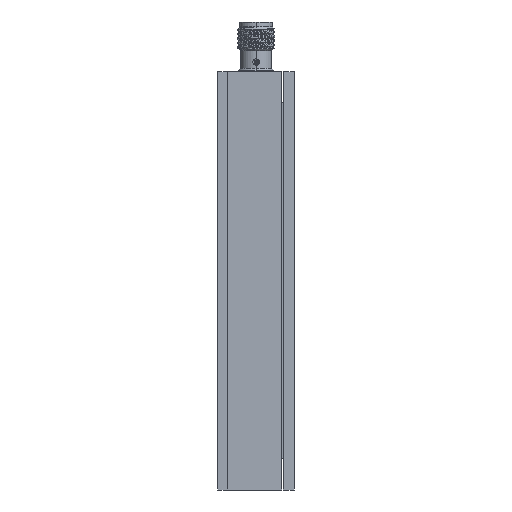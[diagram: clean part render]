
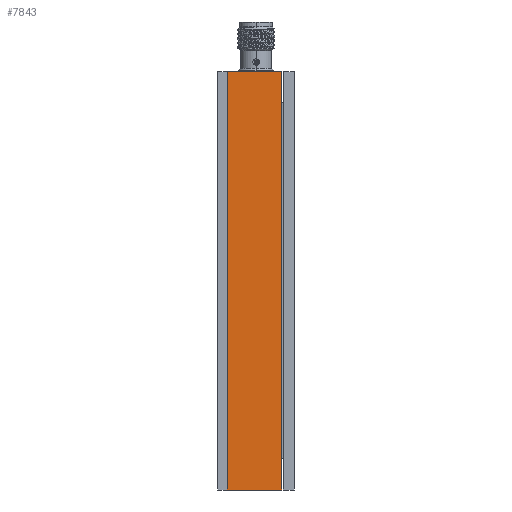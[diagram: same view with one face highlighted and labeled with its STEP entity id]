
A CAD part, left-side view. The second image highlights one B-rep face of the part: STEP entity #7843.
In plain terms, the highlighted planar face has unit normal (-1, 0, 0).
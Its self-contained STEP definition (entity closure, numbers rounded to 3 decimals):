
#775 = CARTESIAN_POINT ( 'NONE',  ( -39.497, 8.89, -34.099 ) ) ;
#989 = LINE ( 'NONE', #2915, #8268 ) ;
#1225 = ORIENTED_EDGE ( 'NONE', *, *, #2736, .T. ) ;
#1595 = CARTESIAN_POINT ( 'NONE',  ( -39.497, 8.89, -34.099 ) ) ;
#2469 = VECTOR ( 'NONE', #3083, 1000. ) ;
#2513 = ORIENTED_EDGE ( 'NONE', *, *, #21480, .F. ) ;
#2736 = EDGE_CURVE ( 'NONE', #14103, #6220, #989, .T. ) ;
#2915 = CARTESIAN_POINT ( 'NONE',  ( -39.497, 8.89, 34.1 ) ) ;
#3083 = DIRECTION ( 'NONE',  ( 0., 1., 0. ) ) ;
#3682 = DIRECTION ( 'NONE',  ( 0., 0., -1. ) ) ;
#4152 = FACE_OUTER_BOUND ( 'NONE', #15044, .T. ) ;
#4201 = LINE ( 'NONE', #11017, #2469 ) ;
#4371 = CARTESIAN_POINT ( 'NONE',  ( -39.497, 8.89, 34.1 ) ) ;
#5243 = DIRECTION ( 'NONE',  ( 0., 0., -1. ) ) ;
#5272 = LINE ( 'NONE', #15651, #5825 ) ;
#5825 = VECTOR ( 'NONE', #20792, 1000. ) ;
#5985 = CARTESIAN_POINT ( 'NONE',  ( -39.497, 0., 34.1 ) ) ;
#6220 = VERTEX_POINT ( 'NONE', #4371 ) ;
#6644 = ORIENTED_EDGE ( 'NONE', *, *, #10785, .F. ) ;
#7183 = VERTEX_POINT ( 'NONE', #1595 ) ;
#7843 = ADVANCED_FACE ( 'NONE', ( #4152 ), #10966, .F. ) ;
#8268 = VECTOR ( 'NONE', #9530, 1000. ) ;
#8954 = EDGE_CURVE ( 'NONE', #14103, #21728, #18989, .T. ) ;
#9530 = DIRECTION ( 'NONE',  ( 0., 1., 0. ) ) ;
#9872 = DIRECTION ( 'NONE',  ( 1., 0., 0. ) ) ;
#10785 = EDGE_CURVE ( 'NONE', #7183, #6220, #5272, .T. ) ;
#10929 = ORIENTED_EDGE ( 'NONE', *, *, #8954, .F. ) ;
#10966 = PLANE ( 'NONE',  #19522 ) ;
#11017 = CARTESIAN_POINT ( 'NONE',  ( -39.497, 8.89, -34.099 ) ) ;
#14103 = VERTEX_POINT ( 'NONE', #5985 ) ;
#15044 = EDGE_LOOP ( 'NONE', ( #1225, #6644, #2513, #10929 ) ) ;
#15651 = CARTESIAN_POINT ( 'NONE',  ( -39.497, 8.89, 0. ) ) ;
#17306 = CARTESIAN_POINT ( 'NONE',  ( -39.497, 0., -34.099 ) ) ;
#18860 = VECTOR ( 'NONE', #3682, 1000. ) ;
#18989 = LINE ( 'NONE', #17306, #18860 ) ;
#19522 = AXIS2_PLACEMENT_3D ( 'NONE', #775, #9872, #5243 ) ;
#20792 = DIRECTION ( 'NONE',  ( 0., 0., 1. ) ) ;
#21480 = EDGE_CURVE ( 'NONE', #21728, #7183, #4201, .T. ) ;
#21728 = VERTEX_POINT ( 'NONE', #22069 ) ;
#22069 = CARTESIAN_POINT ( 'NONE',  ( -39.497, 0., -34.099 ) ) ;
